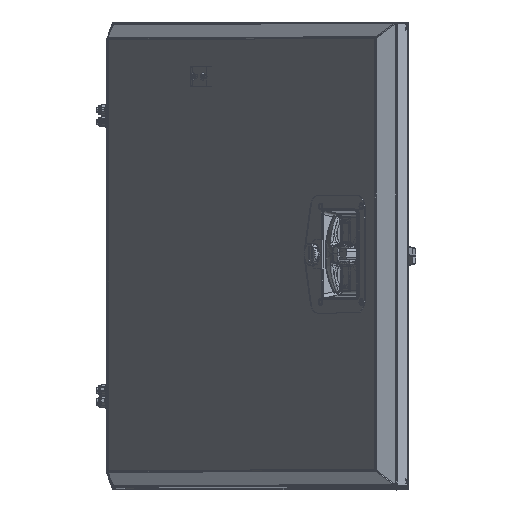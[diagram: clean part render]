
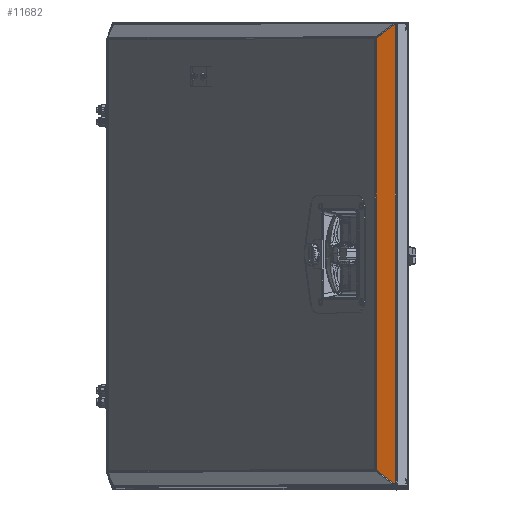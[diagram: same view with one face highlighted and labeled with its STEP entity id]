
A CAD part, top view. The second image highlights one B-rep face of the part: STEP entity #11682.
In plain terms, the highlighted planar face has unit normal (-0.259, 0, 0.966) as drawn and (-0.707, 0, 0.707) by its records, which use the part's own axes.
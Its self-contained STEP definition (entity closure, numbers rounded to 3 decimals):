
#217 = EDGE_CURVE ( 'NONE', #31516, #15508, #19977, .T. ) ;
#1254 = DIRECTION ( 'NONE',  ( 0.577, -0.577, 0.577 ) ) ;
#1296 = CARTESIAN_POINT ( 'NONE',  ( -277.95, 223.281, -1.2 ) ) ;
#1615 = VECTOR ( 'NONE', #16937, 1000. ) ;
#2885 = CARTESIAN_POINT ( 'NONE',  ( -277.541, -222.872, -0.791 ) ) ;
#3456 = DIRECTION ( 'NONE',  ( -0.577, -0.577, -0.577 ) ) ;
#4072 = CARTESIAN_POINT ( 'NONE',  ( -276.75, 0., 0. ) ) ;
#4130 = CARTESIAN_POINT ( 'NONE',  ( -277.541, -222.872, -0.791 ) ) ;
#6922 = ORIENTED_EDGE ( 'NONE', *, *, #48975, .T. ) ;
#10372 = DIRECTION ( 'NONE',  ( -0.577, 0.577, -0.577 ) ) ;
#10761 = CARTESIAN_POINT ( 'NONE',  ( -202.723, 148.054, 74.027 ) ) ;
#11682 = ADVANCED_FACE ( 'NONE', ( #44297 ), #15795, .F. ) ;
#12237 = DIRECTION ( 'NONE',  ( 0.707, 0., -0.707 ) ) ;
#13073 = VECTOR ( 'NONE', #3456, 1000. ) ;
#13468 = EDGE_CURVE ( 'NONE', #18616, #36542, #45190, .T. ) ;
#15109 = DIRECTION ( 'NONE',  ( 0., -1., 0. ) ) ;
#15508 = VERTEX_POINT ( 'NONE', #4130 ) ;
#15795 = PLANE ( 'NONE',  #35288 ) ;
#15872 = CARTESIAN_POINT ( 'NONE',  ( -291.959, -237.29, -15.209 ) ) ;
#15930 = CARTESIAN_POINT ( 'NONE',  ( -291.959, 237.29, -15.209 ) ) ;
#15940 = CARTESIAN_POINT ( 'NONE',  ( -277.95, -223.281, -1.2 ) ) ;
#16494 = EDGE_CURVE ( 'NONE', #30187, #29338, #35109, .T. ) ;
#16937 = DIRECTION ( 'NONE',  ( 0.577, 0.577, 0.577 ) ) ;
#18616 = VERTEX_POINT ( 'NONE', #19990 ) ;
#18964 = ORIENTED_EDGE ( 'NONE', *, *, #16494, .T. ) ;
#19583 = DIRECTION ( 'NONE',  ( 0., -1., 0. ) ) ;
#19683 = ORIENTED_EDGE ( 'NONE', *, *, #217, .F. ) ;
#19977 = LINE ( 'NONE', #2885, #33764 ) ;
#19990 = CARTESIAN_POINT ( 'NONE',  ( -291.959, -237.29, -15.209 ) ) ;
#20991 = CARTESIAN_POINT ( 'NONE',  ( -202.723, -148.054, 74.027 ) ) ;
#21427 = ORIENTED_EDGE ( 'NONE', *, *, #44954, .F. ) ;
#22355 = ORIENTED_EDGE ( 'NONE', *, *, #13468, .T. ) ;
#25100 = DIRECTION ( 'NONE',  ( 0., -1., 0. ) ) ;
#25718 = CARTESIAN_POINT ( 'NONE',  ( -277.541, 222.872, -0.791 ) ) ;
#29165 = LINE ( 'NONE', #15872, #41658 ) ;
#29338 = VERTEX_POINT ( 'NONE', #15930 ) ;
#30187 = VERTEX_POINT ( 'NONE', #1296 ) ;
#30393 = EDGE_CURVE ( 'NONE', #15508, #36542, #45789, .T. ) ;
#31516 = VERTEX_POINT ( 'NONE', #25718 ) ;
#33764 = VECTOR ( 'NONE', #15109, 1000. ) ;
#33907 = VECTOR ( 'NONE', #10372, 1000. ) ;
#35109 = LINE ( 'NONE', #47590, #33907 ) ;
#35288 = AXIS2_PLACEMENT_3D ( 'NONE', #4072, #12237, #19583 ) ;
#36210 = VECTOR ( 'NONE', #1254, 1000. ) ;
#36542 = VERTEX_POINT ( 'NONE', #15940 ) ;
#37677 = CARTESIAN_POINT ( 'NONE',  ( -202.723, -148.054, 74.027 ) ) ;
#41658 = VECTOR ( 'NONE', #25100, 1000. ) ;
#42190 = ORIENTED_EDGE ( 'NONE', *, *, #30393, .F. ) ;
#44297 = FACE_OUTER_BOUND ( 'NONE', #49665, .T. ) ;
#44954 = EDGE_CURVE ( 'NONE', #30187, #31516, #50980, .T. ) ;
#45190 = LINE ( 'NONE', #20991, #1615 ) ;
#45789 = LINE ( 'NONE', #37677, #13073 ) ;
#47590 = CARTESIAN_POINT ( 'NONE',  ( -202.723, 148.054, 74.027 ) ) ;
#48975 = EDGE_CURVE ( 'NONE', #29338, #18616, #29165, .T. ) ;
#49665 = EDGE_LOOP ( 'NONE', ( #18964, #6922, #22355, #42190, #19683, #21427 ) ) ;
#50980 = LINE ( 'NONE', #10761, #36210 ) ;
